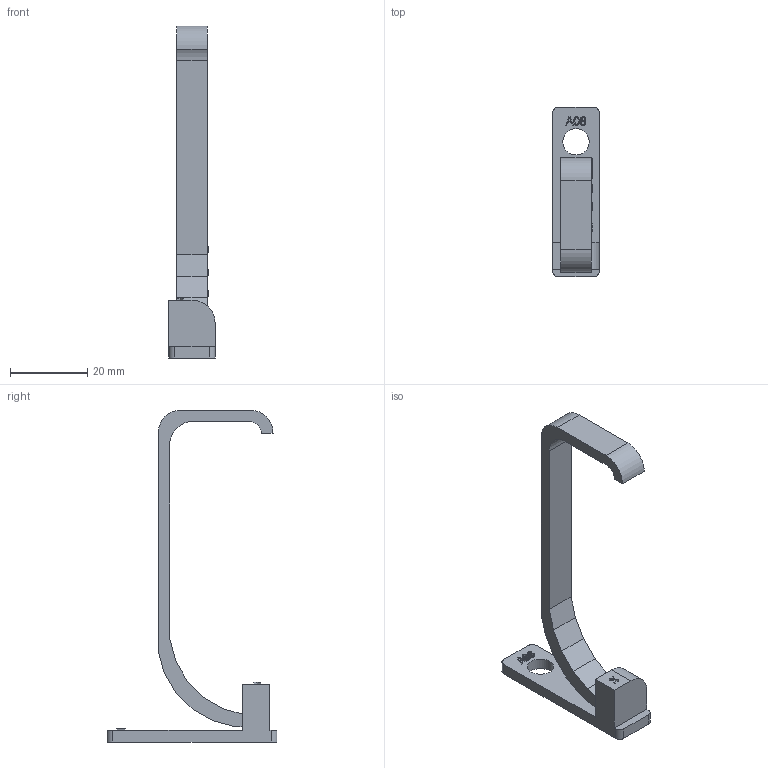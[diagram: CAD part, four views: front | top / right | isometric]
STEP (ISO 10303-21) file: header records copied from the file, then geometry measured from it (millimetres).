
FILE_DESCRIPTION(('Open CASCADE Model'),'2;1');
FILE_NAME('Open CASCADE Shape Model','1970-01-01T00:00:00',('Author'),( 'Open CASCADE'),'Open CASCADE STEP processor 7.8','Open CASCADE 7.8' ,'Unknown');
FILE_SCHEMA(('AUTOMOTIVE_DESIGN { 1 0 10303 214 1 1 1 1 }'));
Length unit declared in the file: millimetre
Products named in the file (2): Open CASCADE STEP translator 7.8 13; A08 angle and curve blade
Assembly tree (1 placements, depth 2):
  Open CASCADE STEP translator 7.8 13
    A08 angle and curve blade
Bounding box: 12 x 44 x 86 mm (x, y, z)
Volume: 5396.4 mm3; surface area: 4505.6 mm2
Topology: 1 solids, 1 shells, 396 faces, 1103 edges, 735 vertices
Faces by surface type: extrusion 257, plane 128, cylinder 11
Full cylindrical faces by diameter (mm): 6.8 x2
Entity records: 31334 total; most frequent: CARTESIAN_POINT 11857, DIRECTION 2421, ORIENTED_EDGE 2206, PCURVE 2206, DEFINITIONAL_REPRESENTATION 2206, VECTOR 2077, LINE 1820, B_SPLINE_CURVE_WITH_KNOTS 1700
